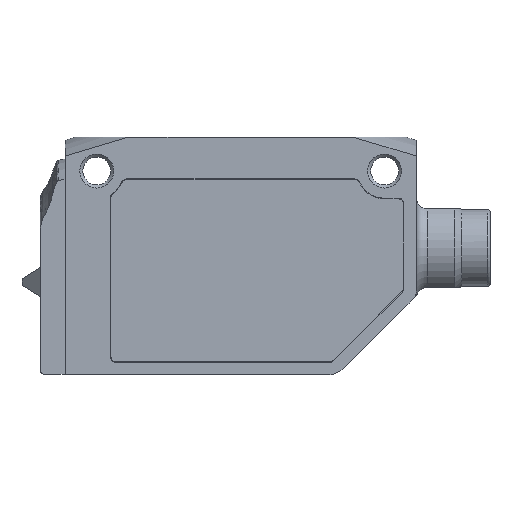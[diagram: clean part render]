
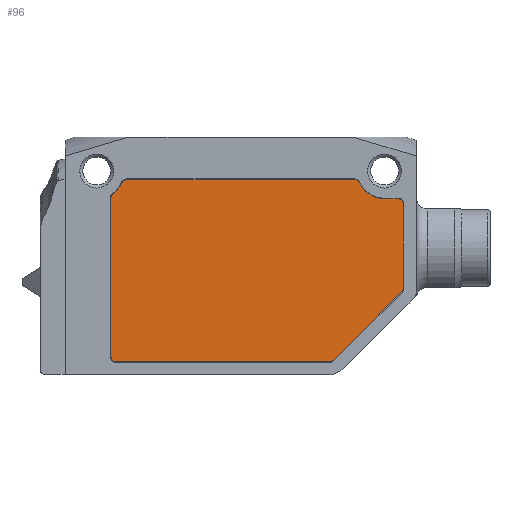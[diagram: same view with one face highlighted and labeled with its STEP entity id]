
A CAD part, left-side view. The second image highlights one B-rep face of the part: STEP entity #96.
In plain terms, the highlighted planar face has unit normal (-1, 0, 0).
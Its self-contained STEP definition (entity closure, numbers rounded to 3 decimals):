
#96 = ADVANCED_FACE( '', ( #223 ), #224, .F. );
#223 = FACE_OUTER_BOUND( '', #445, .T. );
#224 = PLANE( '', #446 );
#445 = EDGE_LOOP( '', ( #811, #812, #813, #814, #815, #816, #817, #818, #819, #820, #821, #822, #823, #824, #825 ) );
#446 = AXIS2_PLACEMENT_3D( '', #826, #827, #828 );
#811 = ORIENTED_EDGE( '', *, *, #1506, .T. );
#812 = ORIENTED_EDGE( '', *, *, #1507, .T. );
#813 = ORIENTED_EDGE( '', *, *, #1508, .T. );
#814 = ORIENTED_EDGE( '', *, *, #1509, .F. );
#815 = ORIENTED_EDGE( '', *, *, #1510, .T. );
#816 = ORIENTED_EDGE( '', *, *, #1511, .T. );
#817 = ORIENTED_EDGE( '', *, *, #1512, .T. );
#818 = ORIENTED_EDGE( '', *, *, #1513, .T. );
#819 = ORIENTED_EDGE( '', *, *, #1514, .T. );
#820 = ORIENTED_EDGE( '', *, *, #1515, .T. );
#821 = ORIENTED_EDGE( '', *, *, #1516, .T. );
#822 = ORIENTED_EDGE( '', *, *, #1517, .T. );
#823 = ORIENTED_EDGE( '', *, *, #1518, .T. );
#824 = ORIENTED_EDGE( '', *, *, #1519, .T. );
#825 = ORIENTED_EDGE( '', *, *, #1520, .F. );
#826 = CARTESIAN_POINT( '', ( -6.5, -2.5, 3.914 ) );
#827 = DIRECTION( '', ( 1., 0., 0. ) );
#828 = DIRECTION( '', ( 0., 0., -1. ) );
#1506 = EDGE_CURVE( '', #1825, #1826, #1827, .F. );
#1507 = EDGE_CURVE( '', #1826, #1828, #1829, .T. );
#1508 = EDGE_CURVE( '', #1828, #1830, #1831, .F. );
#1509 = EDGE_CURVE( '', #1832, #1830, #1833, .F. );
#1510 = EDGE_CURVE( '', #1832, #1834, #1835, .F. );
#1511 = EDGE_CURVE( '', #1834, #1836, #1837, .T. );
#1512 = EDGE_CURVE( '', #1836, #1838, #1839, .F. );
#1513 = EDGE_CURVE( '', #1838, #1840, #1841, .T. );
#1514 = EDGE_CURVE( '', #1840, #1842, #1843, .F. );
#1515 = EDGE_CURVE( '', #1842, #1844, #1845, .T. );
#1516 = EDGE_CURVE( '', #1844, #1846, #1847, .F. );
#1517 = EDGE_CURVE( '', #1846, #1848, #1849, .T. );
#1518 = EDGE_CURVE( '', #1848, #1850, #1851, .F. );
#1519 = EDGE_CURVE( '', #1850, #1852, #1853, .T. );
#1520 = EDGE_CURVE( '', #1825, #1852, #1854, .F. );
#1825 = VERTEX_POINT( '', #2351 );
#1826 = VERTEX_POINT( '', #2352 );
#1827 = CIRCLE( '', #2353, 0.45 );
#1828 = VERTEX_POINT( '', #2354 );
#1829 = LINE( '', #2355, #2356 );
#1830 = VERTEX_POINT( '', #2357 );
#1831 = CIRCLE( '', #2358, 0.45 );
#1832 = VERTEX_POINT( '', #2359 );
#1833 = CIRCLE( '', #2360, 2.45 );
#1834 = VERTEX_POINT( '', #2361 );
#1835 = CIRCLE( '', #2362, 0.45 );
#1836 = VERTEX_POINT( '', #2363 );
#1837 = LINE( '', #2364, #2365 );
#1838 = VERTEX_POINT( '', #2366 );
#1839 = CIRCLE( '', #2367, 0.45 );
#1840 = VERTEX_POINT( '', #2368 );
#1841 = LINE( '', #2369, #2370 );
#1842 = VERTEX_POINT( '', #2371 );
#1843 = CIRCLE( '', #2372, 0.45 );
#1844 = VERTEX_POINT( '', #2373 );
#1845 = LINE( '', #2374, #2375 );
#1846 = VERTEX_POINT( '', #2376 );
#1847 = CIRCLE( '', #2377, 0.45 );
#1848 = VERTEX_POINT( '', #2378 );
#1849 = LINE( '', #2379, #2380 );
#1850 = VERTEX_POINT( '', #2381 );
#1851 = CIRCLE( '', #2382, 0.45 );
#1852 = VERTEX_POINT( '', #2383 );
#1853 = LINE( '', #2384, #2385 );
#1854 = CIRCLE( '', #2386, 2.45 );
#2351 = CARTESIAN_POINT( '', ( -6.5, 1.53, 13.486 ) );
#2352 = CARTESIAN_POINT( '', ( -6.5, 1.94, 13.75 ) );
#2353 = AXIS2_PLACEMENT_3D( '', #2874, #2875, #2876 );
#2354 = CARTESIAN_POINT( '', ( -6.5, 22.06, 13.75 ) );
#2355 = CARTESIAN_POINT( '', ( -6.5, -2.5, 13.75 ) );
#2356 = VECTOR( '', #2877, 1000. );
#2357 = CARTESIAN_POINT( '', ( -6.5, 22.47, 13.486 ) );
#2358 = AXIS2_PLACEMENT_3D( '', #2878, #2879, #2880 );
#2359 = CARTESIAN_POINT( '', ( -6.5, 23.264, 12.515 ) );
#2360 = AXIS2_PLACEMENT_3D( '', #2881, #2882, #2883 );
#2361 = CARTESIAN_POINT( '', ( -6.5, 23.45, 12.151 ) );
#2362 = AXIS2_PLACEMENT_3D( '', #2884, #2885, #2886 );
#2363 = CARTESIAN_POINT( '', ( -6.5, 23.45, -1.9 ) );
#2364 = CARTESIAN_POINT( '', ( -6.5, 23.45, 3.914 ) );
#2365 = VECTOR( '', #2887, 1000. );
#2366 = CARTESIAN_POINT( '', ( -6.5, 23., -2.35 ) );
#2367 = AXIS2_PLACEMENT_3D( '', #2888, #2889, #2890 );
#2368 = CARTESIAN_POINT( '', ( -6.5, 4.163, -2.35 ) );
#2369 = CARTESIAN_POINT( '', ( -6.5, -2.5, -2.35 ) );
#2370 = VECTOR( '', #2891, 1000. );
#2371 = CARTESIAN_POINT( '', ( -6.5, 3.845, -2.218 ) );
#2372 = AXIS2_PLACEMENT_3D( '', #2892, #2893, #2894 );
#2373 = CARTESIAN_POINT( '', ( -6.5, -2.218, 3.845 ) );
#2374 = CARTESIAN_POINT( '', ( -6.5, -2.394, 4.02 ) );
#2375 = VECTOR( '', #2895, 1000. );
#2376 = CARTESIAN_POINT( '', ( -6.5, -2.35, 4.163 ) );
#2377 = AXIS2_PLACEMENT_3D( '', #2896, #2897, #2898 );
#2378 = CARTESIAN_POINT( '', ( -6.5, -2.35, 11.6 ) );
#2379 = CARTESIAN_POINT( '', ( -6.5, -2.35, 3.914 ) );
#2380 = VECTOR( '', #2899, 1000. );
#2381 = CARTESIAN_POINT( '', ( -6.5, -1.9, 12.05 ) );
#2382 = AXIS2_PLACEMENT_3D( '', #2900, #2901, #2902 );
#2383 = CARTESIAN_POINT( '', ( -6.5, -0.7, 12.05 ) );
#2384 = CARTESIAN_POINT( '', ( -6.5, -2.5, 12.05 ) );
#2385 = VECTOR( '', #2903, 1000. );
#2386 = AXIS2_PLACEMENT_3D( '', #2904, #2905, #2906 );
#2874 = CARTESIAN_POINT( '', ( -6.5, 1.94, 13.3 ) );
#2875 = DIRECTION( '', ( 1., 0., 0. ) );
#2876 = DIRECTION( '', ( 0., 0., -1. ) );
#2877 = DIRECTION( '', ( 0., 1., 0. ) );
#2878 = CARTESIAN_POINT( '', ( -6.5, 22.06, 13.3 ) );
#2879 = DIRECTION( '', ( 1., 0., 0. ) );
#2880 = DIRECTION( '', ( 0., 0., -1. ) );
#2881 = CARTESIAN_POINT( '', ( -6.5, 24.7, 14.5 ) );
#2882 = DIRECTION( '', ( 1., 0., 0. ) );
#2883 = DIRECTION( '', ( 0., 0., -1. ) );
#2884 = CARTESIAN_POINT( '', ( -6.5, 23., 12.151 ) );
#2885 = DIRECTION( '', ( 1., 0., 0. ) );
#2886 = DIRECTION( '', ( 0., 0., -1. ) );
#2887 = DIRECTION( '', ( 0., 0., -1. ) );
#2888 = CARTESIAN_POINT( '', ( -6.5, 23., -1.9 ) );
#2889 = DIRECTION( '', ( 1., 0., 0. ) );
#2890 = DIRECTION( '', ( 0., 0., -1. ) );
#2891 = DIRECTION( '', ( 0., -1., 0. ) );
#2892 = CARTESIAN_POINT( '', ( -6.5, 4.163, -1.9 ) );
#2893 = DIRECTION( '', ( 1., 0., 0. ) );
#2894 = DIRECTION( '', ( 0., 0., -1. ) );
#2895 = DIRECTION( '', ( 0., -0.707, 0.707 ) );
#2896 = CARTESIAN_POINT( '', ( -6.5, -1.9, 4.163 ) );
#2897 = DIRECTION( '', ( 1., 0., 0. ) );
#2898 = DIRECTION( '', ( 0., 0., -1. ) );
#2899 = DIRECTION( '', ( 0., 0., 1. ) );
#2900 = CARTESIAN_POINT( '', ( -6.5, -1.9, 11.6 ) );
#2901 = DIRECTION( '', ( 1., 0., 0. ) );
#2902 = DIRECTION( '', ( 0., 0., -1. ) );
#2903 = DIRECTION( '', ( 0., 1., 0. ) );
#2904 = CARTESIAN_POINT( '', ( -6.5, -0.7, 14.5 ) );
#2905 = DIRECTION( '', ( 1., 0., 0. ) );
#2906 = DIRECTION( '', ( 0., 0., -1. ) );
